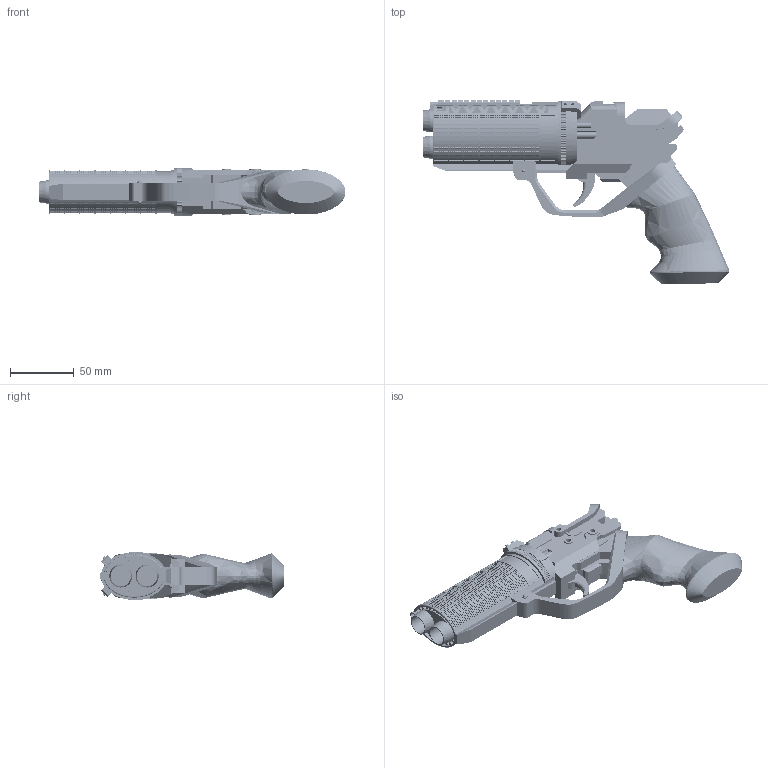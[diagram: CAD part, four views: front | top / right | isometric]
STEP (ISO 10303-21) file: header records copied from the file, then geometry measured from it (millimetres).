
FILE_DESCRIPTION (( 'STEP AP214' ), '1' );
FILE_NAME ('Blaster2049.STEP', '2017-10-13T18:37:14', ( '' ), ( '' ), 'SwSTEP 2.0', 'SolidWorks 2017', '' );
FILE_SCHEMA (( 'AUTOMOTIVE_DESIGN' ));
Length unit declared in the file: millimetre
Products named in the file (1): Blaster2049
Bounding box: 241.54 x 145.49 x 38.44 mm (x, y, z)
Volume: 337955.8 mm3; surface area: 74595.9 mm2
Topology: 1 solids, 1 shells, 5561 faces, 16107 edges, 10656 vertices
Faces by surface type: plane 2161, bspline 2074, cylinder 1314, cone 10, sphere 2
Entity records: 197689 total; most frequent: CARTESIAN_POINT 67874, ORIENTED_EDGE 32206, DIRECTION 23550, EDGE_CURVE 16103, VERTEX_POINT 10654, AXIS2_PLACEMENT_3D 8542, VECTOR 6466, LINE 6466
